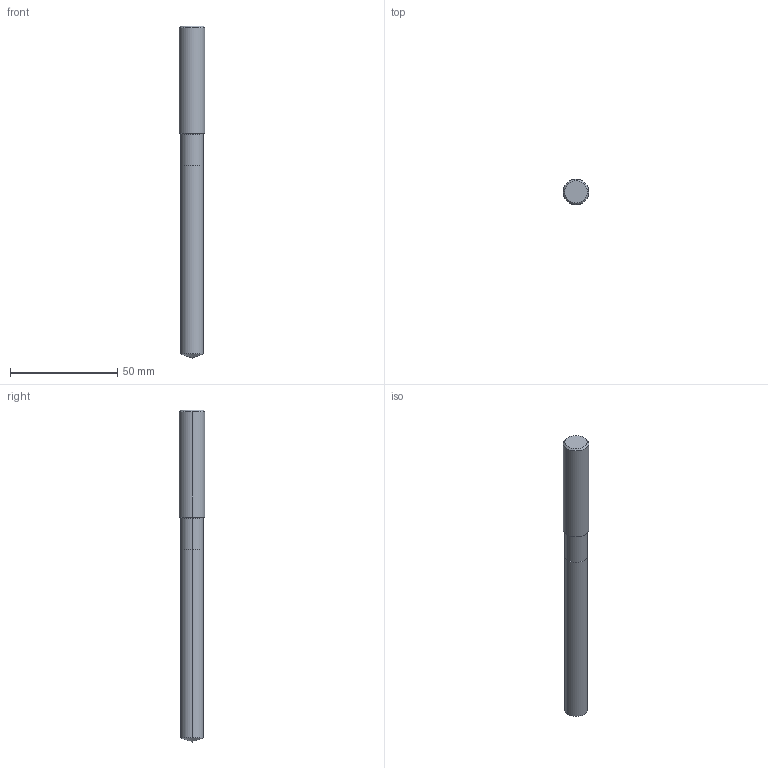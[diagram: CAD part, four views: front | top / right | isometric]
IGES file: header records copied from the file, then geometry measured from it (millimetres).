
Start section: 3D InterOp IGES (v. 2020 1.0.1), Spatial Corp. Copyright (c) 1999-2017.
Global section: file name: WZB12225_10.6.igs; native system: Spatial Corp.; preprocessor: 3D InterOp GENERIC/IGES 3.0; author: Noname; organization: Noname; date: 20201104.104735; units: metre
Bounding box: 12 x 12 x 155 mm (x, y, z)
Surface area: 5520.6 mm2 (no closed solid volume)
Topology: 0 solids, 0 shells, 14 faces, 54 edges, 52 vertices
Faces by surface type: revolution 12, extrusion 2
